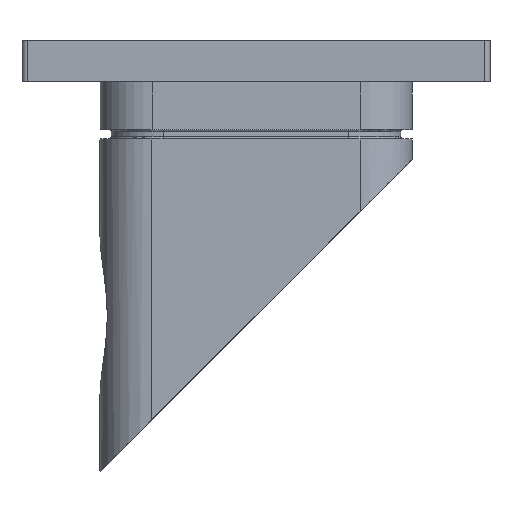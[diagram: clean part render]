
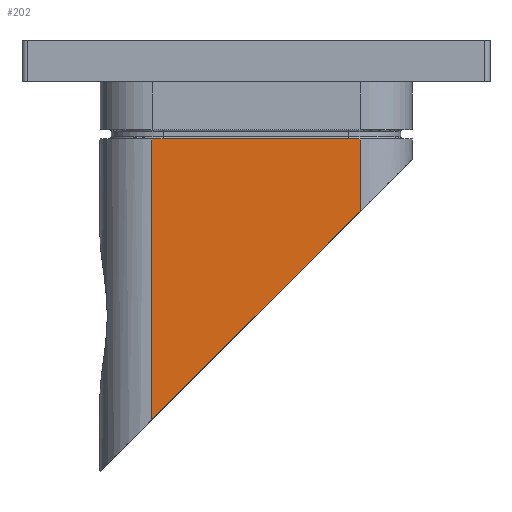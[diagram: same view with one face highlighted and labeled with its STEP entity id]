
A CAD part, front view. The second image highlights one B-rep face of the part: STEP entity #202.
In plain terms, the highlighted planar face has unit normal (0, -1, 0).
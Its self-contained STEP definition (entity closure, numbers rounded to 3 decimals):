
#202=ADVANCED_FACE('',(#319),#1237,.T.);
#319=FACE_OUTER_BOUND('',#479,.F.);
#479=EDGE_LOOP('',(#713,#714,#715,#716));
#713=ORIENTED_EDGE('',*,*,#2229,.T.);
#714=ORIENTED_EDGE('',*,*,#2196,.F.);
#715=ORIENTED_EDGE('',*,*,#2201,.T.);
#716=ORIENTED_EDGE('',*,*,#2195,.T.);
#1237=PLANE('',#2990);
#1867=LINE('',#4141,#1998);
#1868=LINE('',#4142,#1999);
#1873=LINE('',#4147,#2004);
#1893=LINE('',#4241,#2024);
#1998=VECTOR('',#3222,7.);
#1999=VECTOR('',#3223,27.);
#2004=VECTOR('',#3228,20.);
#2024=VECTOR('',#3256,28.284);
#2195=EDGE_CURVE('',#2691,#2731,#1867,.T.);
#2196=EDGE_CURVE('',#2690,#2728,#1868,.T.);
#2201=EDGE_CURVE('',#2690,#2691,#1873,.T.);
#2229=EDGE_CURVE('',#2731,#2728,#1893,.T.);
#2690=VERTEX_POINT('',#3903);
#2691=VERTEX_POINT('',#3904);
#2728=VERTEX_POINT('',#3941);
#2731=VERTEX_POINT('',#3944);
#2990=AXIS2_PLACEMENT_3D('',#4445,#3584,#3585);
#3222=DIRECTION('',(0.,0.,-1.));
#3223=DIRECTION('',(0.,0.,-1.));
#3228=DIRECTION('',(1.,0.,0.));
#3256=DIRECTION('',(-0.707,0.,-0.707));
#3584=DIRECTION('',(0.,-1.,0.));
#3585=DIRECTION('',(0.,0.,-1.));
#3903=CARTESIAN_POINT('',(-196.25,325.5,-320.25));
#3904=CARTESIAN_POINT('',(-176.25,325.5,-320.25));
#3941=CARTESIAN_POINT('',(-196.25,325.5,
-347.25));
#3944=CARTESIAN_POINT('',(-176.25,325.5,
-327.25));
#4141=CARTESIAN_POINT('',(-176.25,325.5,-320.25));
#4142=CARTESIAN_POINT('',(-196.25,325.5,-320.25));
#4147=CARTESIAN_POINT('',(-196.25,325.5,-320.25));
#4241=CARTESIAN_POINT('',(-176.25,325.5,-327.25));
#4445=CARTESIAN_POINT('',(-201.25,325.5,-291.461));
